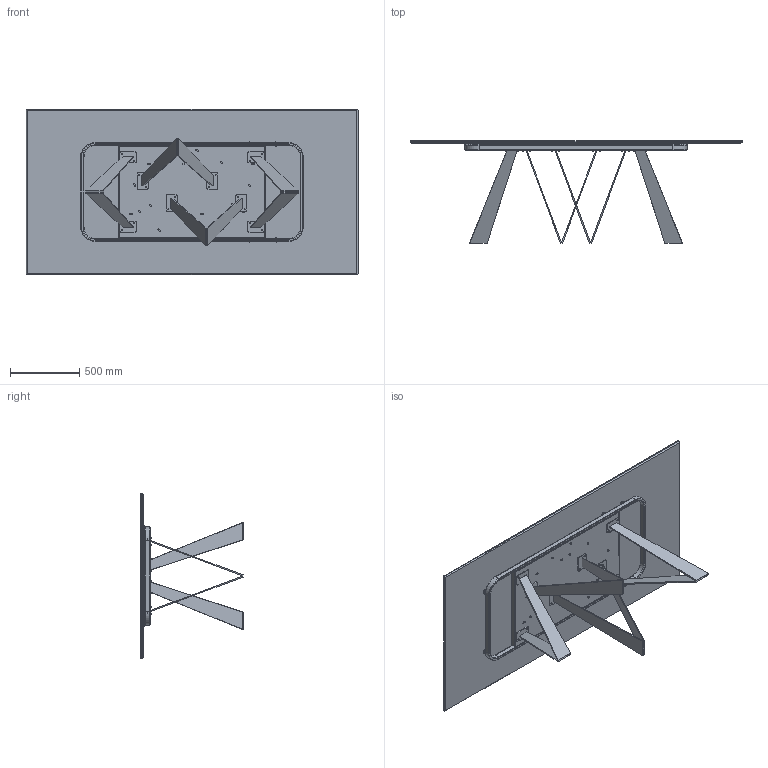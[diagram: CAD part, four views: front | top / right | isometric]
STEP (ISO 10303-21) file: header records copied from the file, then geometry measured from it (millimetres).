
FILE_DESCRIPTION (( 'STEP AP203' ), '1' );
FILE_NAME ('NO22C_Noa_239x119x75h_Ceramic Rectangular.STEP', '2024-08-07T14:31:11', ( '' ), ( '' ), 'SwSTEP 2.0', 'SolidWorks 2022', '' );
FILE_SCHEMA (( 'CONFIG_CONTROL_DESIGN' ));
Length unit declared in the file: millimetre
Products named in the file (14): Assieme NOA var 3_noa 200-240; NOA000000-00-NOA BASE GREZZA; 434070-00-PIEDINO TPV GOMMA NERO D. 30x8max18; M8xXXmm_M8x16mm; rondella M8_8X16; K2XCMXX-00-Piani Rettangolari in ceramica_2390 x 1190; NOA000001PTRS-00-Piastra rettangoalre con fori; TTAV06_01-01-STRUTTURA X TAVOLI PLAI ONDA NOA 240_Default<A macchina>; NOA000001GMB-00-Piastra Principale gamba NOA_Piatto SX; TTAV06-01-TELAIO X TAVOLI PLAI ONDA NOA 240cm_TTAV06; MAPPA; TTAV06_02-01-VASSOIO TAVOLI PLAI ONDA NOA 240; NOA000001GMB-00-Piastra Principale gamba NOA_Piatto DX; NO22C_Noa_239x119x75h_Ceramic Rectangular
Assembly tree (51 placements, depth 4):
  MAPPA
  NO22C_Noa_239x119x75h_Ceramic Rectangular
    K2XCMXX-00-Piani Rettangolari in ceramica_2390 x 1190
    Assieme NOA var 3_noa 200-240
      NOA000000-00-NOA BASE GREZZA  x4
        NOA000001GMB-00-Piastra Principale gamba NOA_Piatto SX
        NOA000001GMB-00-Piastra Principale gamba NOA_Piatto DX
        NOA000001PTRS-00-Piastra rettangoalre con fori
      TTAV06-01-TELAIO X TAVOLI PLAI ONDA NOA 240cm_TTAV06
        TTAV06_02-01-VASSOIO TAVOLI PLAI ONDA NOA 240
        TTAV06_01-01-STRUTTURA X TAVOLI PLAI ONDA NOA 240_Default<A macchina>
    M8xXXmm_M8x16mm  x16
    rondella M8_8X16  x16
    434070-00-PIEDINO TPV GOMMA NERO D. 30x8max18  x6
Bounding box: 2390 x 735.8 x 1190 mm (x, y, z)
Volume: 54444749.6 mm3; surface area: 15500507.8 mm2
Topology: 71 solids, 71 shells, 1490 faces, 3408 edges, 2044 vertices
Faces by surface type: plane 598, cylinder 388, cone 256, torus 248
Entity records: 20614 total; most frequent: DIRECTION 3353, CARTESIAN_POINT 3149, ORIENTED_EDGE 2964, EDGE_CURVE 1482, AXIS2_PLACEMENT_3D 1250, VERTEX_POINT 928, LINE 853, VECTOR 853
